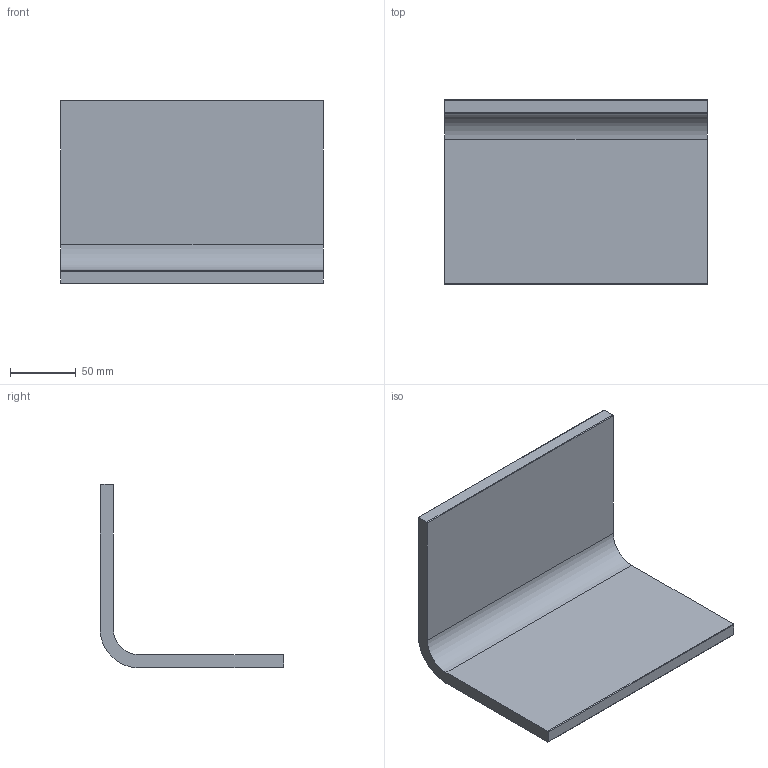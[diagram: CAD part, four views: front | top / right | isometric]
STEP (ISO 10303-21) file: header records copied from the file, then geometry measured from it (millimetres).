
FILE_DESCRIPTION (( 'STEP AP203' ), '1' );
FILE_NAME ('CURVA APPLIQUE 5513 3D MODEL.STEP', '2016-09-28T15:43:08', ( '' ), ( '' ), 'SwSTEP 2.0', 'SolidWorks 2016', '' );
FILE_SCHEMA (( 'CONFIG_CONTROL_DESIGN' ));
Length unit declared in the file: millimetre
Products named in the file (1): CURVA APPLIQUE 5513 3D MODEL
Bounding box: 200 x 140 x 140 mm (x, y, z)
Volume: 514588.5 mm3; surface area: 113479.3 mm2
Topology: 1 solids, 1 shells, 38 faces, 96 edges, 64 vertices
Faces by surface type: plane 20, cylinder 18
Entity records: 1233 total; most frequent: DIRECTION 210, CARTESIAN_POINT 199, ORIENTED_EDGE 192, EDGE_CURVE 96, AXIS2_PLACEMENT_3D 75, VERTEX_POINT 64, VECTOR 60, LINE 60
